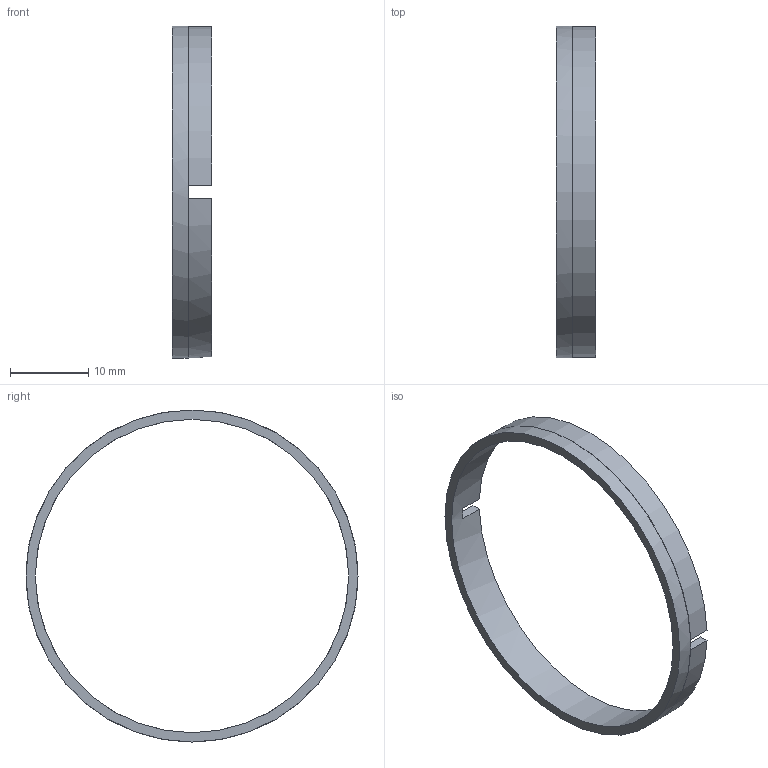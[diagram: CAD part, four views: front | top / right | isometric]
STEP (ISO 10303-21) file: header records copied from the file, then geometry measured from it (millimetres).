
FILE_DESCRIPTION(('Open CASCADE Model'),'2;1');
FILE_NAME('Open CASCADE Shape Model','2026-10-04T08:08:20',('Author'),( 'Open CASCADE'),'Open CASCADE STEP processor 7.9','Open CASCADE 7.9' ,'Unknown');
FILE_SCHEMA(('AUTOMOTIVE_DESIGN { 1 0 10303 214 1 1 1 1 }'));
Length unit declared in the file: millimetre
Products named in the file (1): Open CASCADE STEP translator 7.9 3
Bounding box: 5 x 42.5 x 42.5 mm (x, y, z)
Volume: 746.8 mm3; surface area: 1601.7 mm2
Topology: 1 solids, 1 shells, 19 faces, 54 edges, 36 vertices
Faces by surface type: plane 14, cylinder 4, bspline 1
Full cylindrical faces by diameter (mm): 40.1 x1, 42.5 x1
Entity records: 1354 total; most frequent: CARTESIAN_POINT 362, DIRECTION 156, ORIENTED_EDGE 108, PCURVE 108, DEFINITIONAL_REPRESENTATION 108, B_SPLINE_CURVE_WITH_KNOTS 63, LINE 57, VECTOR 57
